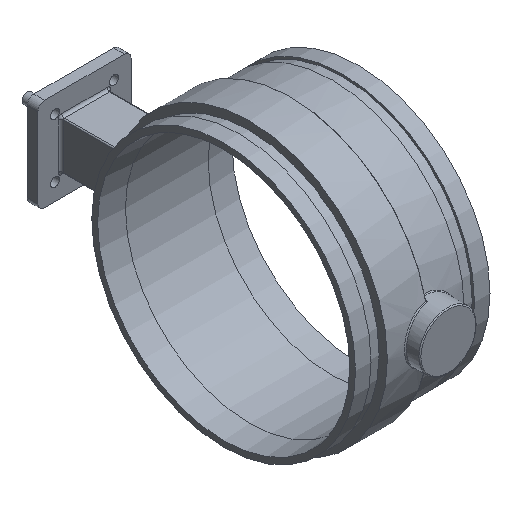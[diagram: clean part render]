
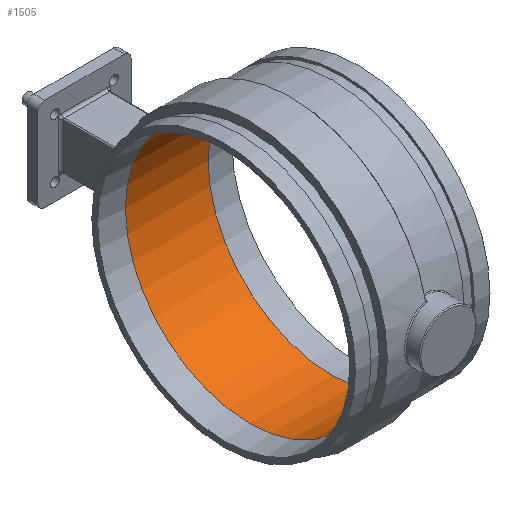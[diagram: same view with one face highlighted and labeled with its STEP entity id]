
A CAD part, isometric view. The second image highlights one B-rep face of the part: STEP entity #1505.
In plain terms, the highlighted cylindrical face has radius 152.4 mm (diameter 304.8 mm), a full revolution.
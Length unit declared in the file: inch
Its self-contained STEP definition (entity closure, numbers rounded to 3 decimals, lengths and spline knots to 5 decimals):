
#226=FACE_OUTER_BOUND('',#327,.T.);
#327=EDGE_LOOP('',(#1296,#1297,#1298,#1299,#1300,#1301));
#392=LINE('',#3192,#457);
#457=VECTOR('',#2136,6.);
#541=CIRCLE('',#1667,6.);
#544=CIRCLE('',#1670,6.);
#563=CIRCLE('',#1700,6.);
#564=CIRCLE('',#1701,6.);
#669=VERTEX_POINT('',#3126);
#670=VERTEX_POINT('',#3127);
#691=VERTEX_POINT('',#3186);
#692=VERTEX_POINT('',#3188);
#865=EDGE_CURVE('',#669,#670,#541,.T.);
#869=EDGE_CURVE('',#670,#669,#544,.T.);
#893=EDGE_CURVE('',#692,#691,#563,.T.);
#894=EDGE_CURVE('',#691,#692,#564,.T.);
#895=EDGE_CURVE('',#691,#670,#392,.T.);
#1296=ORIENTED_EDGE('',*,*,#893,.T.);
#1297=ORIENTED_EDGE('',*,*,#895,.T.);
#1298=ORIENTED_EDGE('',*,*,#865,.F.);
#1299=ORIENTED_EDGE('',*,*,#869,.F.);
#1300=ORIENTED_EDGE('',*,*,#895,.F.);
#1301=ORIENTED_EDGE('',*,*,#894,.T.);
#1335=CYLINDRICAL_SURFACE('',#1702,6.);
#1505=ADVANCED_FACE('',(#226),#1335,.F.);
#1667=AXIS2_PLACEMENT_3D('',#3128,#2058,#2059);
#1670=AXIS2_PLACEMENT_3D('',#3134,#2065,#2066);
#1700=AXIS2_PLACEMENT_3D('',#3189,#2130,#2131);
#1701=AXIS2_PLACEMENT_3D('',#3190,#2132,#2133);
#1702=AXIS2_PLACEMENT_3D('',#3191,#2134,#2135);
#2058=DIRECTION('center_axis',(1.,0.,0.));
#2059=DIRECTION('ref_axis',(0.,0.,1.));
#2065=DIRECTION('center_axis',(1.,0.,0.));
#2066=DIRECTION('ref_axis',(0.,0.,1.));
#2130=DIRECTION('center_axis',(1.,0.,0.));
#2131=DIRECTION('ref_axis',(0.,0.,1.));
#2132=DIRECTION('center_axis',(1.,0.,0.));
#2133=DIRECTION('ref_axis',(0.,0.,1.));
#2134=DIRECTION('center_axis',(1.,0.,0.));
#2135=DIRECTION('ref_axis',(0.,1.,0.));
#2136=DIRECTION('',(-1.,0.,0.));
#3126=CARTESIAN_POINT('',(-2.25,6.,0.));
#3127=CARTESIAN_POINT('',(-2.25,-6.,0.));
#3128=CARTESIAN_POINT('Origin',(-2.25,0.,0.));
#3134=CARTESIAN_POINT('Origin',(-2.25,0.,0.));
#3186=CARTESIAN_POINT('',(1.75,-6.,0.));
#3188=CARTESIAN_POINT('',(1.75,6.,0.));
#3189=CARTESIAN_POINT('Origin',(1.75,0.,0.));
#3190=CARTESIAN_POINT('Origin',(1.75,0.,0.));
#3191=CARTESIAN_POINT('Origin',(0.75,0.,0.));
#3192=CARTESIAN_POINT('',(0.75,-6.,0.));
